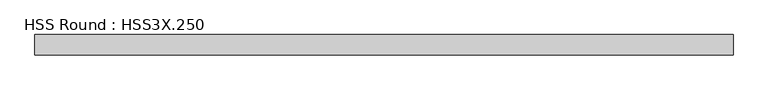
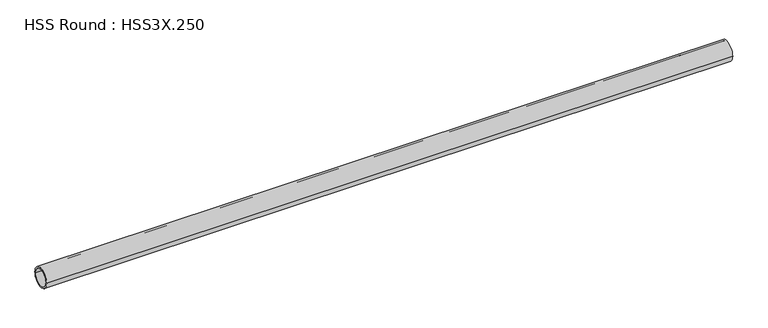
"""IFC4 building model written with IfcOpenShell, lengths in millimetres: member geometry, HSS Round : HSS3X.250."""

from ifc_helpers import new_model, si_unit, point, frame, origin, origin_2d, place, context, project, spatial, circle_curve, trimmed, segment, composite_curve, outline, extrude, source, transform, mapped, element, save


def hss_round_hss3x_250_fa23e0ce(model_context):
    return source(origin(), model_context, "Body", "SweptSolid", [
        extrude(outline(composite_curve([segment(trimmed(circle_curve(origin_2d(), 38.1), [point((-38.1, 0.0))], [point((38.1, 0.0))], False, "CARTESIAN"), True, "CONTINUOUS"), segment(trimmed(circle_curve(origin_2d(), 38.1), [point((38.1, 0.0))], [point((-38.1, 0.0))], False, "CARTESIAN"), True, "CONTINUOUS")], self_intersect=False), holes=[composite_curve([segment(trimmed(circle_curve(origin_2d(), 31.75), [point((31.75, 0.0))], [point((-31.75, 0.0))], True, "CARTESIAN"), True, "CONTINUOUS"), segment(trimmed(circle_curve(origin_2d(), 31.75), [point((-31.75, 0.0))], [point((31.75, 0.0))], True, "CARTESIAN"), True, "CONTINUOUS")], self_intersect=False)]), frame((-1265.5158413, 0.0, 0.0), z_axis=(1.0, 0.0, 0.0), x_axis=(0.0, 1.0, 0.0)), (0.0, 0.0, 1.0), 2588.8864096),
    ])


if __name__ == "__main__":
    model = new_model("IFC4")
    model_context = context("Model", 3, world=origin())
    ifc_project = project(units=[si_unit("LENGTHUNIT", "METRE", prefix="MILLI")], contexts=[model_context])
    site = spatial("IfcSite", under=ifc_project)
    building = spatial("IfcBuilding", under=site)
    placement = place(None, origin())
    hss_round_hss3x_250_shape = hss_round_hss3x_250_fa23e0ce(model_context)
    element("IfcMember", 1, ObjectType="HSS Round : HSS3X.250", at=placement, inside=building, context=model_context, shape_type="MappedRepresentation", body=[
        mapped(hss_round_hss3x_250_shape, transform((0.0, 0.0, 0.0), x_axis=(1.0, 0.0, 0.0), y_axis=(0.0, 1.0, 0.0), z_axis=(0.0, 0.0, 1.0))),
    ])
    save(model, "model.ifc")
